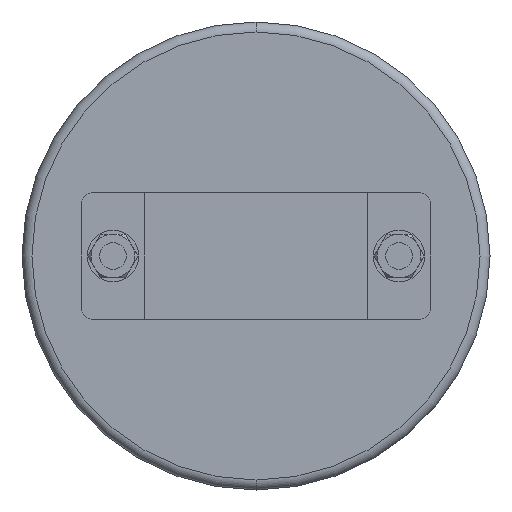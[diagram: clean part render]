
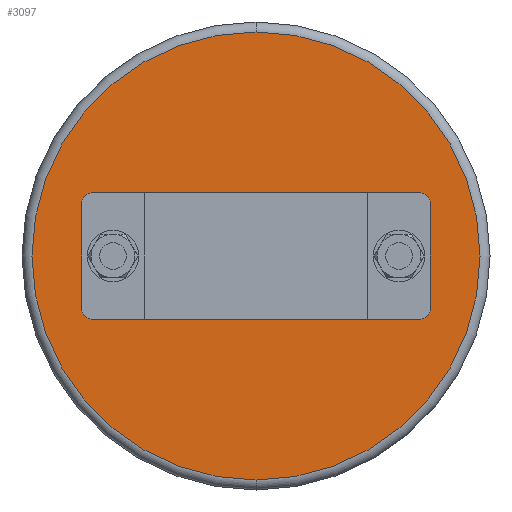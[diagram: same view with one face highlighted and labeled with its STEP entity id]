
A CAD part, front view. The second image highlights one B-rep face of the part: STEP entity #3097.
In plain terms, the highlighted planar face has unit normal (0, -1, 0).
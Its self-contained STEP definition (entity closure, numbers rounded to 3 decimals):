
#18 = DIRECTION ( 'NONE',  ( 0., -1., 0. ) ) ;
#536 = ORIENTED_EDGE ( 'NONE', *, *, #3636, .F. ) ;
#551 = EDGE_CURVE ( 'NONE', #4113, #8203, #5022, .T. ) ;
#681 = EDGE_CURVE ( 'NONE', #6901, #969, #1572, .T. ) ;
#735 = VERTEX_POINT ( 'NONE', #6921 ) ;
#776 = AXIS2_PLACEMENT_3D ( 'NONE', #4117, #2043, #7642 ) ;
#789 = CARTESIAN_POINT ( 'NONE',  ( -43.1, 97., -6. ) ) ;
#812 = DIRECTION ( 'NONE',  ( 0., -1., 0. ) ) ;
#896 = ORIENTED_EDGE ( 'NONE', *, *, #6865, .T. ) ;
#939 = CIRCLE ( 'NONE', #7854, 10. ) ;
#969 = VERTEX_POINT ( 'NONE', #7933 ) ;
#1025 = DIRECTION ( 'NONE',  ( 0., 0., 1. ) ) ;
#1069 = CARTESIAN_POINT ( 'NONE',  ( 0., 97., 10. ) ) ;
#1070 = LINE ( 'NONE', #3774, #2967 ) ;
#1087 = DIRECTION ( 'NONE',  ( 0., 1., 0. ) ) ;
#1114 = DIRECTION ( 'NONE',  ( 0., -1., 0. ) ) ;
#1317 = PLANE ( 'NONE',  #776 ) ;
#1380 = CARTESIAN_POINT ( 'NONE',  ( -9., 97., -70.5 ) ) ;
#1391 = CIRCLE ( 'NONE', #8746, 10. ) ;
#1470 = DIRECTION ( 'NONE',  ( 0., 0., 1. ) ) ;
#1560 = EDGE_LOOP ( 'NONE', ( #4326, #8380 ) ) ;
#1572 = CIRCLE ( 'NONE', #6604, 67.5 ) ;
#1580 = EDGE_CURVE ( 'NONE', #8604, #4091, #7039, .T. ) ;
#1723 = ORIENTED_EDGE ( 'NONE', *, *, #7402, .F. ) ;
#2000 = FACE_BOUND ( 'NONE', #6605, .T. ) ;
#2006 = EDGE_CURVE ( 'NONE', #969, #6901, #3959, .T. ) ;
#2043 = DIRECTION ( 'NONE',  ( 0., 1., 0. ) ) ;
#2050 = ORIENTED_EDGE ( 'NONE', *, *, #1580, .F. ) ;
#2165 = CARTESIAN_POINT ( 'NONE',  ( 0., 97., 0. ) ) ;
#2171 = EDGE_LOOP ( 'NONE', ( #536, #6396, #2050, #4866, #1723 ) ) ;
#2210 = ORIENTED_EDGE ( 'NONE', *, *, #5024, .T. ) ;
#2515 = VERTEX_POINT ( 'NONE', #6941 ) ;
#2652 = DIRECTION ( 'NONE',  ( 0., 0., 1. ) ) ;
#2678 = FACE_OUTER_BOUND ( 'NONE', #1560, .T. ) ;
#2692 = CIRCLE ( 'NONE', #4416, 6. ) ;
#2783 = CARTESIAN_POINT ( 'NONE',  ( 43.1, 97., -6. ) ) ;
#2863 = CARTESIAN_POINT ( 'NONE',  ( 0., 97., 0. ) ) ;
#2967 = VECTOR ( 'NONE', #1025, 1000. ) ;
#2978 = EDGE_LOOP ( 'NONE', ( #896, #2210 ) ) ;
#3097 = ADVANCED_FACE ( 'NONE', ( #6096, #2678, #5424, #2000 ), #1317, .F. ) ;
#3123 = CARTESIAN_POINT ( 'NONE',  ( 9., 97., -4.359 ) ) ;
#3404 = DIRECTION ( 'NONE',  ( 0., 0., 1. ) ) ;
#3439 = AXIS2_PLACEMENT_3D ( 'NONE', #2165, #6319, #3525 ) ;
#3525 = DIRECTION ( 'NONE',  ( 0., 0., 1. ) ) ;
#3560 = AXIS2_PLACEMENT_3D ( 'NONE', #8789, #8100, #5348 ) ;
#3636 = EDGE_CURVE ( 'NONE', #735, #6018, #939, .T. ) ;
#3774 = CARTESIAN_POINT ( 'NONE',  ( 9., 97., -70.5 ) ) ;
#3816 = DIRECTION ( 'NONE',  ( 0., 0., 1. ) ) ;
#3831 = CARTESIAN_POINT ( 'NONE',  ( 43.1, 97., 6. ) ) ;
#3836 = DIRECTION ( 'NONE',  ( 0., 0., 1. ) ) ;
#3959 = CIRCLE ( 'NONE', #5405, 67.5 ) ;
#4091 = VERTEX_POINT ( 'NONE', #3123 ) ;
#4113 = VERTEX_POINT ( 'NONE', #8462 ) ;
#4117 = CARTESIAN_POINT ( 'NONE',  ( 0., 97., 0. ) ) ;
#4287 = CARTESIAN_POINT ( 'NONE',  ( 0., 97., 0. ) ) ;
#4326 = ORIENTED_EDGE ( 'NONE', *, *, #2006, .T. ) ;
#4416 = AXIS2_PLACEMENT_3D ( 'NONE', #8550, #5915, #8639 ) ;
#4497 = CARTESIAN_POINT ( 'NONE',  ( 43.1, 97., 0. ) ) ;
#4866 = ORIENTED_EDGE ( 'NONE', *, *, #8255, .T. ) ;
#5022 = CIRCLE ( 'NONE', #7052, 6. ) ;
#5024 = EDGE_CURVE ( 'NONE', #5681, #8154, #8269, .T. ) ;
#5310 = ORIENTED_EDGE ( 'NONE', *, *, #5313, .T. ) ;
#5313 = EDGE_CURVE ( 'NONE', #8203, #4113, #2692, .T. ) ;
#5348 = DIRECTION ( 'NONE',  ( 0., 0., 1. ) ) ;
#5371 = VECTOR ( 'NONE', #1470, 1000. ) ;
#5405 = AXIS2_PLACEMENT_3D ( 'NONE', #7300, #1114, #2652 ) ;
#5424 = FACE_BOUND ( 'NONE', #2978, .T. ) ;
#5681 = VERTEX_POINT ( 'NONE', #3831 ) ;
#5766 = ORIENTED_EDGE ( 'NONE', *, *, #551, .T. ) ;
#5915 = DIRECTION ( 'NONE',  ( 0., 1., 0. ) ) ;
#6018 = VERTEX_POINT ( 'NONE', #1069 ) ;
#6096 = FACE_BOUND ( 'NONE', #2171, .T. ) ;
#6100 = CARTESIAN_POINT ( 'NONE',  ( 0., 97., 0. ) ) ;
#6319 = DIRECTION ( 'NONE',  ( 0., -1., 0. ) ) ;
#6383 = AXIS2_PLACEMENT_3D ( 'NONE', #4497, #7249, #3816 ) ;
#6393 = DIRECTION ( 'NONE',  ( 0., 0., 1. ) ) ;
#6396 = ORIENTED_EDGE ( 'NONE', *, *, #7460, .F. ) ;
#6604 = AXIS2_PLACEMENT_3D ( 'NONE', #2863, #8266, #6785 ) ;
#6605 = EDGE_LOOP ( 'NONE', ( #5310, #5766 ) ) ;
#6640 = CARTESIAN_POINT ( 'NONE',  ( -43.1, 97., 0. ) ) ;
#6785 = DIRECTION ( 'NONE',  ( 0., 0., 1. ) ) ;
#6865 = EDGE_CURVE ( 'NONE', #8154, #5681, #7141, .T. ) ;
#6901 = VERTEX_POINT ( 'NONE', #8341 ) ;
#6921 = CARTESIAN_POINT ( 'NONE',  ( 9., 97., 4.359 ) ) ;
#6941 = CARTESIAN_POINT ( 'NONE',  ( -9., 97., 4.359 ) ) ;
#6964 = CARTESIAN_POINT ( 'NONE',  ( -9., 97., -4.359 ) ) ;
#7039 = CIRCLE ( 'NONE', #3439, 10. ) ;
#7052 = AXIS2_PLACEMENT_3D ( 'NONE', #6640, #1087, #3836 ) ;
#7141 = CIRCLE ( 'NONE', #3560, 6. ) ;
#7249 = DIRECTION ( 'NONE',  ( 0., 1., 0. ) ) ;
#7300 = CARTESIAN_POINT ( 'NONE',  ( 0., 97., 0. ) ) ;
#7402 = EDGE_CURVE ( 'NONE', #6018, #2515, #1391, .T. ) ;
#7460 = EDGE_CURVE ( 'NONE', #4091, #735, #1070, .T. ) ;
#7642 = DIRECTION ( 'NONE',  ( 0., 0., 1. ) ) ;
#7854 = AXIS2_PLACEMENT_3D ( 'NONE', #4287, #812, #6393 ) ;
#7933 = CARTESIAN_POINT ( 'NONE',  ( 0., 97., 67.5 ) ) ;
#8100 = DIRECTION ( 'NONE',  ( 0., 1., 0. ) ) ;
#8154 = VERTEX_POINT ( 'NONE', #2783 ) ;
#8203 = VERTEX_POINT ( 'NONE', #789 ) ;
#8255 = EDGE_CURVE ( 'NONE', #8604, #2515, #8343, .T. ) ;
#8266 = DIRECTION ( 'NONE',  ( 0., -1., 0. ) ) ;
#8269 = CIRCLE ( 'NONE', #6383, 6. ) ;
#8341 = CARTESIAN_POINT ( 'NONE',  ( 0., 97., -67.5 ) ) ;
#8343 = LINE ( 'NONE', #1380, #5371 ) ;
#8380 = ORIENTED_EDGE ( 'NONE', *, *, #681, .T. ) ;
#8462 = CARTESIAN_POINT ( 'NONE',  ( -43.1, 97., 6. ) ) ;
#8550 = CARTESIAN_POINT ( 'NONE',  ( -43.1, 97., 0. ) ) ;
#8604 = VERTEX_POINT ( 'NONE', #6964 ) ;
#8639 = DIRECTION ( 'NONE',  ( 0., 0., 1. ) ) ;
#8746 = AXIS2_PLACEMENT_3D ( 'NONE', #6100, #18, #3404 ) ;
#8789 = CARTESIAN_POINT ( 'NONE',  ( 43.1, 97., 0. ) ) ;
